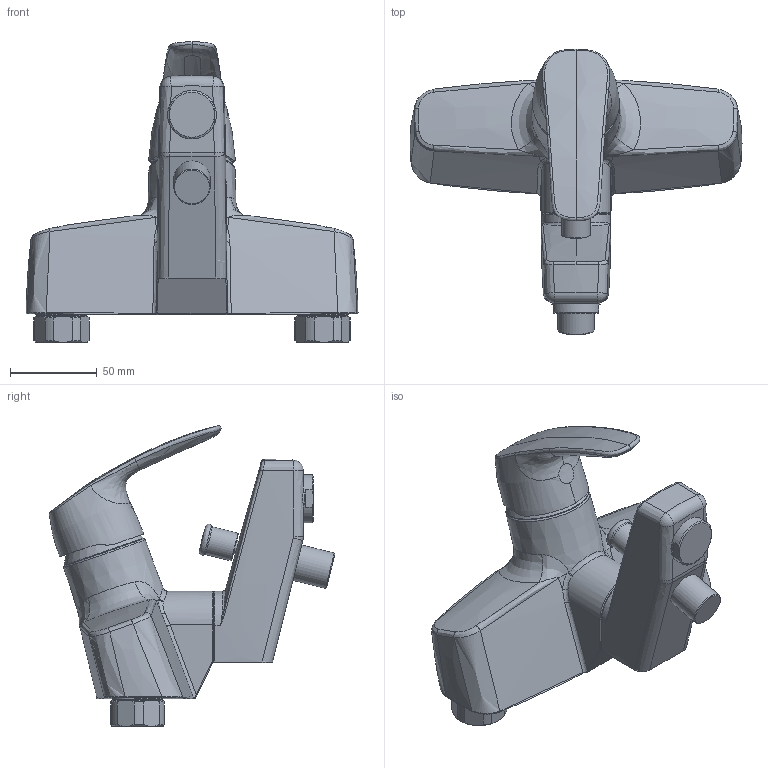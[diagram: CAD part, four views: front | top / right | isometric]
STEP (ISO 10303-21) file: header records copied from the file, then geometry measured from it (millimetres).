
FILE_DESCRIPTION (( 'STEP AP203' ), '1' );
FILE_NAME ('1072(2017).STEP', '2017-03-09T05:41:55', ( '' ), ( '' ), 'SwSTEP 2.0', 'SolidWorks 2016', '' );
FILE_SCHEMA (( 'CONFIG_CONTROL_DESIGN' ));
Length unit declared in the file: millimetre
Products named in the file (1): 1072(2017)
Bounding box: 191.05 x 164.45 x 172.92 mm (x, y, z)
Volume: 821817 mm3; surface area: 85190.3 mm2
Topology: 1 solids, 1 shells, 228 faces, 541 edges, 334 vertices
Faces by surface type: bspline 111, plane 45, cylinder 37, cone 30, torus 3, sphere 2
Full cylindrical faces by diameter (mm): 7.725 x1, 12.5 x2, 16.5 x1, 20.955 x1, 21.2 x2, 24 x2, 26 x2, 27.9 x1, 29 x2, 33 x1
Entity records: 21920 total; most frequent: CARTESIAN_POINT 17758, ORIENTED_EDGE 994, DIRECTION 561, EDGE_CURVE 497, VERTEX_POINT 317, B_SPLINE_CURVE_WITH_KNOTS 293, EDGE_LOOP 274, AXIS2_PLACEMENT_3D 256
